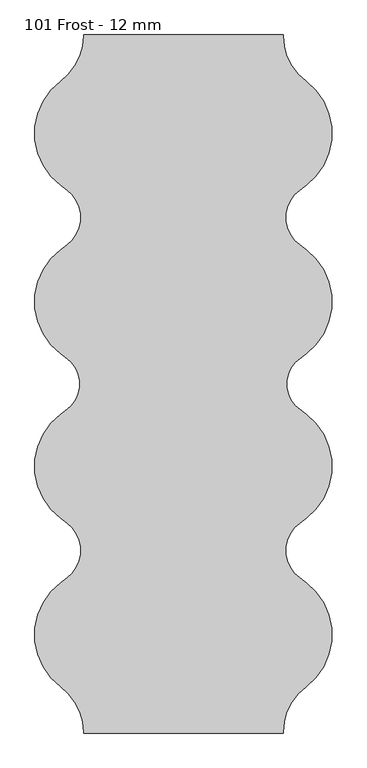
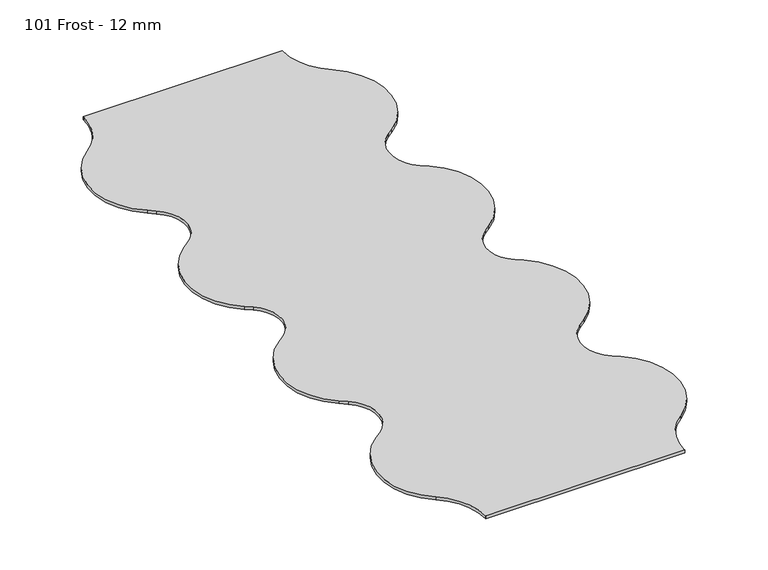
"""IFC4 building model written with IfcOpenShell, lengths in millimetres: proxy geometry, Wall-Panel-Kirei_USA-EchoScreen-Ellipse_Screen : 101 Frost - 12 mm."""

import ifcopenshell
import ifcopenshell.guid

model = None  # the IFC model being written
_history = None  # IfcOwnerHistory: only IFC2X3 demands one
_inside = {}  # id of a spatial element -> (the spatial element, [elements in it])
_under = {}  # id of a project, library or spatial element -> (it, [spatial elements below it])
_declared = {}  # id of a project -> (the project, [libraries it declares])
_typed = {}  # id of a type object -> (the type object, [elements of that type])
_made_of = {}  # id of a material, layer set ... -> (it, [elements and type objects made of it])


def new_model(schema):
    """Start an empty IFC model of exactly this schema.

    Asked for "IFC4X3", IfcOpenShell would pick the latest addendum, in which some entities
    have other attributes; the version numbers below select the first issue.
    IFC2X3 requires an IfcOwnerHistory on every rooted entity: one is made here for all.
    """
    global model, _history
    if schema == "IFC4X3":
        model = ifcopenshell.file(schema_version=(4, 3, 0, 0))
    else:
        model = ifcopenshell.file(schema=schema)
    _inside.clear()
    _under.clear()
    _declared.clear()
    _typed.clear()
    _made_of.clear()
    _history = None
    if model.schema == "IFC2X3":
        org = make("IfcOrganization", Name="unknown")
        user = make(
            "IfcPersonAndOrganization",
            ThePerson=make("IfcPerson", FamilyName="unknown"),
            TheOrganization=org,
        )
        app = make(
            "IfcApplication",
            ApplicationDeveloper=org,
            Version="unknown",
            ApplicationFullName="unknown",
            ApplicationIdentifier="unknown",
        )
        _history = make(
            "IfcOwnerHistory",
            OwningUser=user,
            OwningApplication=app,
            ChangeAction="ADDED",
            CreationDate=0,
        )
    return model


def make(cls, **values):
    """One entity of the class cls with the attributes given. An attribute that is None is left unset."""
    return model.create_entity(
        cls, **{name: value for name, value in values.items() if value is not None}
    )


def rooted(cls, **values):
    """An entity with a GlobalId (a new one), such as an element, a storey or a relation."""
    return make(cls, GlobalId=ifcopenshell.guid.new(), OwnerHistory=_history, **values)


def si_unit(unit_type, name, prefix=None):
    """IfcSIUnit, for example si_unit("LENGTHUNIT", "METRE", prefix="MILLI")."""
    return make("IfcSIUnit", UnitType=unit_type, Prefix=prefix, Name=name)


def assignment(units):
    """IfcUnitAssignment: the units of a project."""
    return None if units is None else make("IfcUnitAssignment", Units=units)


def point(xyz):
    """IfcCartesianPoint."""
    return None if xyz is None else make("IfcCartesianPoint", Coordinates=xyz)


def direction(xyz):
    """IfcDirection."""
    return None if xyz is None else make("IfcDirection", DirectionRatios=xyz)


def frame(location, z_axis=None, x_axis=None):
    """IfcAxis2Placement3D, a coordinate frame: its origin and axes. An axis left out is left unset."""
    return make(
        "IfcAxis2Placement3D",
        Location=point(location),
        Axis=direction(z_axis),
        RefDirection=direction(x_axis),
    )


def frame_2d(location, x_axis=None):
    """IfcAxis2Placement2D, a coordinate frame in the plane: its origin and x axis."""
    return make(
        "IfcAxis2Placement2D", Location=point(location), RefDirection=direction(x_axis)
    )


def origin():
    """The frame at (0, 0, 0) with its axes left unset."""
    return frame((0.0, 0.0, 0.0))


def origin_with_axes():
    """The frame at (0, 0, 0) with the z axis (0, 0, 1) and the x axis (1, 0, 0) written out."""
    return frame((0.0, 0.0, 0.0), z_axis=(0.0, 0.0, 1.0), x_axis=(1.0, 0.0, 0.0))


def place(relative_to, where):
    """IfcLocalPlacement: puts the frame where relative to a parent placement (None: the world)."""
    return make(
        "IfcLocalPlacement", PlacementRelTo=relative_to, RelativePlacement=where
    )


def context(
    kind, dimensions, precision=None, world=None, true_north=None, identifier=None
):
    """IfcGeometricRepresentationContext, for example the 3D "Model" context."""
    return make(
        "IfcGeometricRepresentationContext",
        ContextIdentifier=identifier,
        ContextType=kind,
        CoordinateSpaceDimension=dimensions,
        Precision=precision,
        WorldCoordinateSystem=world,
        TrueNorth=true_north,
    )


def project(units=None, contexts=None):
    """IfcProject with its units and contexts."""
    return rooted(
        "IfcProject",
        Name="project",
        RepresentationContexts=contexts,
        UnitsInContext=assignment(units),
    )


def spatial(cls, under=None, at=None, **own):
    """A site, building, storey or space (cls), placed at a placement, below another one or the project."""
    s = rooted(cls, ObjectPlacement=at, **own)
    if under is not None:
        _under.setdefault(under.id(), (under, []))[1].append(s)
    return s


def polyline(points):
    """IfcPolyline through the points."""
    return make("IfcPolyline", Points=[point(p) for p in points])


def circle_curve(where, radius):
    """IfcCircle in the frame where."""
    return make("IfcCircle", Position=where, Radius=radius)


def trimmed(basis, trim1, trim2, sense, master):
    """IfcTrimmedCurve: the piece of a basis curve between two trims."""
    return make(
        "IfcTrimmedCurve",
        BasisCurve=basis,
        Trim1=trim1,
        Trim2=trim2,
        SenseAgreement=sense,
        MasterRepresentation=master,
    )


def segment(curve, same_sense, transition):
    """IfcCompositeCurveSegment."""
    return make(
        "IfcCompositeCurveSegment",
        Transition=transition,
        SameSense=same_sense,
        ParentCurve=curve,
    )


def composite_curve(segments, self_intersect=None):
    """IfcCompositeCurve: segments joined end to end."""
    return make("IfcCompositeCurve", Segments=segments, SelfIntersect=self_intersect)


def outline(outer, holes=None, kind="AREA"):
    """IfcArbitraryClosedProfileDef: a profile drawn as a closed curve; with holes, ...WithVoids."""
    if holes is None:
        return make("IfcArbitraryClosedProfileDef", ProfileType=kind, OuterCurve=outer)
    return make(
        "IfcArbitraryProfileDefWithVoids",
        ProfileType=kind,
        OuterCurve=outer,
        InnerCurves=holes,
    )


def extrude(swept, where, along, depth):
    """IfcExtrudedAreaSolid: the profile swept, set in the frame where, extruded along a direction by depth."""
    return make(
        "IfcExtrudedAreaSolid",
        SweptArea=swept,
        Position=where,
        ExtrudedDirection=direction(along),
        Depth=depth,
    )


def shape(context_of_items, identifier, shape_type, items):
    """IfcShapeRepresentation: the items that make up one representation, for example the "Body"."""
    return make(
        "IfcShapeRepresentation",
        ContextOfItems=context_of_items,
        RepresentationIdentifier=identifier,
        RepresentationType=shape_type,
        Items=items,
    )


def source(mapping_origin, context_of_items, identifier, shape_type, items):
    """IfcRepresentationMap: a shape defined once, which mapped items show again and again."""
    return make(
        "IfcRepresentationMap",
        MappingOrigin=mapping_origin,
        MappedRepresentation=shape(context_of_items, identifier, shape_type, items),
    )


def transform(
    local_origin,
    x_axis=None,
    y_axis=None,
    z_axis=None,
    scale=None,
    scale2=None,
    scale3=None,
    uniform=True,
):
    """IfcCartesianTransformationOperator3D, or its non-uniform kind. x_axis, y_axis, z_axis: its Axis1, 2, 3."""
    if uniform:
        return make(
            "IfcCartesianTransformationOperator3D",
            Axis1=direction(x_axis),
            Axis2=direction(y_axis),
            LocalOrigin=point(local_origin),
            Scale=scale,
            Axis3=direction(z_axis),
        )
    return make(
        "IfcCartesianTransformationOperator3DnonUniform",
        Axis1=direction(x_axis),
        Axis2=direction(y_axis),
        LocalOrigin=point(local_origin),
        Scale=scale,
        Axis3=direction(z_axis),
        Scale2=scale2,
        Scale3=scale3,
    )


def mapped(mapping_source, mapping_target):
    """IfcMappedItem: shows the shape of a source again, moved by a transform."""
    return make(
        "IfcMappedItem", MappingSource=mapping_source, MappingTarget=mapping_target
    )


def made_of(thing, what):
    """Note that an element or type object is made of a material, layer set ...; save() writes the relation."""
    if what is not None:
        _made_of.setdefault(what.id(), (what, []))[1].append(thing)
    return thing


def element(
    cls,
    number,
    at=None,
    inside=None,
    cuts=None,
    type_object=None,
    material=None,
    context=None,
    identifier="Body",
    shape_type=None,
    held_by="IfcProductDefinitionShape",
    body=None,
    shapes=None,
    **own,
):
    """One element of the class cls, such as IfcWall. Its Tag is "e" and its number.

    at: its placement. inside: the storey or other place that contains it. cuts: it is an
    opening in that element (IfcRelVoidsElement). A single representation is given by context,
    identifier, shape_type and body (its items); several are given by shapes. held_by: the class
    of the entity that holds the representations. save() writes the other relations.
    """
    e = rooted(cls, Tag="e%d" % number, ObjectPlacement=at, **own)
    if body is not None:
        shapes = [shape(context, identifier, shape_type, body)]
    if shapes is not None:
        e.Representation = make(held_by, Representations=shapes)
    if inside is not None:
        _inside.setdefault(inside.id(), (inside, []))[1].append(e)
    if cuts is not None:
        rooted(
            "IfcRelVoidsElement", RelatingBuildingElement=cuts, RelatedOpeningElement=e
        )
    if type_object is not None:
        _typed.setdefault(type_object.id(), (type_object, []))[1].append(e)
    return made_of(e, material)


def aggregate(whole, parts):
    """IfcRelAggregates: a whole, such as a stair, and the parts it consists of."""
    return rooted("IfcRelAggregates", RelatingObject=whole, RelatedObjects=parts)


def save(model, path):
    """Write the relations noted so far, then the file.

    IfcRelAggregates (storeys below a building ...), IfcRelContainedInSpatialStructure (elements
    in a storey), IfcRelDefinesByType, IfcRelAssociatesMaterial and IfcRelDeclares: one each for
    every whole, place, type object, material and project.
    """
    for whole, parts in _under.values():
        aggregate(whole, parts)
    for where, things in _inside.values():
        rooted(
            "IfcRelContainedInSpatialStructure",
            RelatedElements=things,
            RelatingStructure=where,
        )
    for kind, things in _typed.values():
        rooted("IfcRelDefinesByType", RelatedObjects=things, RelatingType=kind)
    for what, things in _made_of.values():
        rooted("IfcRelAssociatesMaterial", RelatedObjects=things, RelatingMaterial=what)
    for by, libraries in _declared.values():
        rooted("IfcRelDeclares", RelatingContext=by, RelatedDefinitions=libraries)
    model.write(path)


def proxy_101_frost_12_mm_e32e4f53(model_context):
    return source(origin(), model_context, "Body", "SweptSolid", [
        extrude(outline(composite_curve([segment(polyline([(366.588988, 1371.6), (366.588988, 1369.1216728)]), True, "CONTINUOUS"), segment(trimmed(circle_curve(frame_2d((591.1272176, 1369.1216728)), 224.5382296), [point((366.588988, 1369.1216728))], [point((456.697914, 1189.271238))], True, "CARTESIAN"), True, "CONTINUOUS"), segment(trimmed(circle_curve(frame_2d((304.0518593, 985.0489551)), 254.9657994), [point((456.697914, 1189.271238))], [point((456.697914, 780.8266721))], False, "CARTESIAN"), True, "CONTINUOUS"), segment(polyline([(456.697914, 780.8266721), (431.2668267, 761.8181924)]), True, "CONTINUOUS"), segment(trimmed(circle_curve(frame_2d((511.6970642, 654.2120917)), 134.3432023), [point((431.2668267, 761.8181924))], [point((431.2668267, 546.6059911))], True, "CARTESIAN"), True, "CONTINUOUS"), segment(polyline([(431.2668267, 546.6059911), (456.697914, 527.5975114)]), True, "CONTINUOUS"), segment(trimmed(circle_curve(frame_2d((304.0518593, 323.3752284)), 254.9657994), [point((456.697914, 527.5975114))], [point((456.697914, 119.1529455))], False, "CARTESIAN"), True, "CONTINUOUS"), segment(polyline([(456.697914, 119.1529455), (431.2668267, 100.1444657)]), True, "CONTINUOUS"), segment(trimmed(circle_curve(frame_2d((506.1198612, 0.0)), 125.0275601), [point((431.2668267, 100.1444657))], [point((431.2668267, -100.1444657))], True, "CARTESIAN"), True, "CONTINUOUS"), segment(polyline([(431.2668267, -100.1444657), (456.697914, -119.1529455)]), True, "CONTINUOUS"), segment(trimmed(circle_curve(frame_2d((304.0518593, -323.3752284)), 254.9657994), [point((456.697914, -119.1529455))], [point((456.697914, -527.5975114))], False, "CARTESIAN"), True, "CONTINUOUS"), segment(polyline([(456.697914, -527.5975114), (431.2668267, -546.6059911)]), True, "CONTINUOUS"), segment(trimmed(circle_curve(frame_2d((511.6970642, -654.2120917)), 134.3432023), [point((431.2668267, -546.6059911))], [point((431.2668267, -761.8181924))], True, "CARTESIAN"), True, "CONTINUOUS"), segment(polyline([(431.2668267, -761.8181924), (456.697914, -780.8266721)]), True, "CONTINUOUS"), segment(trimmed(circle_curve(frame_2d((304.0518593, -985.0489551)), 254.9657994), [point((456.697914, -780.8266721))], [point((456.697914, -1189.271238))], False, "CARTESIAN"), True, "CONTINUOUS"), segment(trimmed(circle_curve(frame_2d((591.1272176, -1369.1216728)), 224.5382296), [point((456.697914, -1189.271238))], [point((366.588988, -1369.1216728))], True, "CARTESIAN"), True, "CONTINUOUS"), segment(polyline([(366.588988, -1369.1216728), (366.588988, -1371.6), (-417.388988, -1371.6), (-417.388988, -1369.1216728)]), True, "CONTINUOUS"), segment(trimmed(circle_curve(frame_2d((-641.9272176, -1369.1216728)), 224.5382296), [point((-417.388988, -1369.1216728))], [point((-507.497914, -1189.271238))], True, "CARTESIAN"), True, "CONTINUOUS"), segment(trimmed(circle_curve(frame_2d((-354.8518593, -985.0489551)), 254.9657994), [point((-507.497914, -1189.271238))], [point((-507.497914, -780.8266721))], False, "CARTESIAN"), True, "CONTINUOUS"), segment(polyline([(-507.497914, -780.8266721), (-482.0668267, -761.8181924)]), True, "CONTINUOUS"), segment(trimmed(circle_curve(frame_2d((-562.4970642, -654.2120917)), 134.3432023), [point((-482.0668267, -761.8181924))], [point((-482.0668267, -546.6059911))], True, "CARTESIAN"), True, "CONTINUOUS"), segment(polyline([(-482.0668267, -546.6059911), (-507.497914, -527.5975114)]), True, "CONTINUOUS"), segment(trimmed(circle_curve(frame_2d((-354.8518593, -323.3752284)), 254.9657994), [point((-507.497914, -527.5975114))], [point((-507.497914, -119.1529455))], False, "CARTESIAN"), True, "CONTINUOUS"), segment(polyline([(-507.497914, -119.1529455), (-482.0668267, -100.1444657)]), True, "CONTINUOUS"), segment(trimmed(circle_curve(frame_2d((-556.9198612, 0.0)), 125.0275601), [point((-482.0668267, -100.1444657))], [point((-482.0668267, 100.1444657))], True, "CARTESIAN"), True, "CONTINUOUS"), segment(polyline([(-482.0668267, 100.1444657), (-507.497914, 119.1529455)]), True, "CONTINUOUS"), segment(trimmed(circle_curve(frame_2d((-354.8518593, 323.3752284)), 254.9657994), [point((-507.497914, 119.1529455))], [point((-507.497914, 527.5975114))], False, "CARTESIAN"), True, "CONTINUOUS"), segment(polyline([(-507.497914, 527.5975114), (-482.0668267, 546.6059911)]), True, "CONTINUOUS"), segment(trimmed(circle_curve(frame_2d((-562.4970642, 654.2120917)), 134.3432023), [point((-482.0668267, 546.6059911))], [point((-482.0668267, 761.8181924))], True, "CARTESIAN"), True, "CONTINUOUS"), segment(polyline([(-482.0668267, 761.8181924), (-507.497914, 780.8266721)]), True, "CONTINUOUS"), segment(trimmed(circle_curve(frame_2d((-354.8518593, 985.0489551)), 254.9657994), [point((-507.497914, 780.8266721))], [point((-507.497914, 1189.271238))], False, "CARTESIAN"), True, "CONTINUOUS"), segment(trimmed(circle_curve(frame_2d((-641.9272176, 1369.1216728)), 224.5382296), [point((-507.497914, 1189.271238))], [point((-417.388988, 1369.1216728))], True, "CARTESIAN"), True, "CONTINUOUS"), segment(polyline([(-417.388988, 1369.1216728), (-417.388988, 1371.6), (366.588988, 1371.6)]), True, "CONTINUOUS")], self_intersect=False)), origin_with_axes(), (0.0, 0.0, 1.0), 12.0054687),
    ])


if __name__ == "__main__":
    model = new_model("IFC4")
    model_context = context("Model", 3, world=origin())
    ifc_project = project(units=[si_unit("LENGTHUNIT", "METRE", prefix="MILLI")], contexts=[model_context])
    site = spatial("IfcSite", under=ifc_project)
    building = spatial("IfcBuilding", under=site)
    placement = place(None, origin())
    proxy_101_frost_12_mm_shape = proxy_101_frost_12_mm_e32e4f53(model_context)
    element("IfcBuildingElementProxy", 1, Name="Wall-Panel-Kirei_USA-EchoScreen-Ellipse_Screen : 101 Frost - 12 mm", ObjectType="Wall-Panel-Kirei_USA-EchoScreen-Ellipse_Screen : 101 Frost - 12 mm", at=placement, inside=building, context=model_context, shape_type="MappedRepresentation", body=[
        mapped(proxy_101_frost_12_mm_shape, transform((0.0, 0.0, 0.0), x_axis=(1.0, 0.0, 0.0), y_axis=(0.0, 1.0, 0.0), z_axis=(0.0, 0.0, 1.0))),
    ])
    save(model, "model.ifc")
